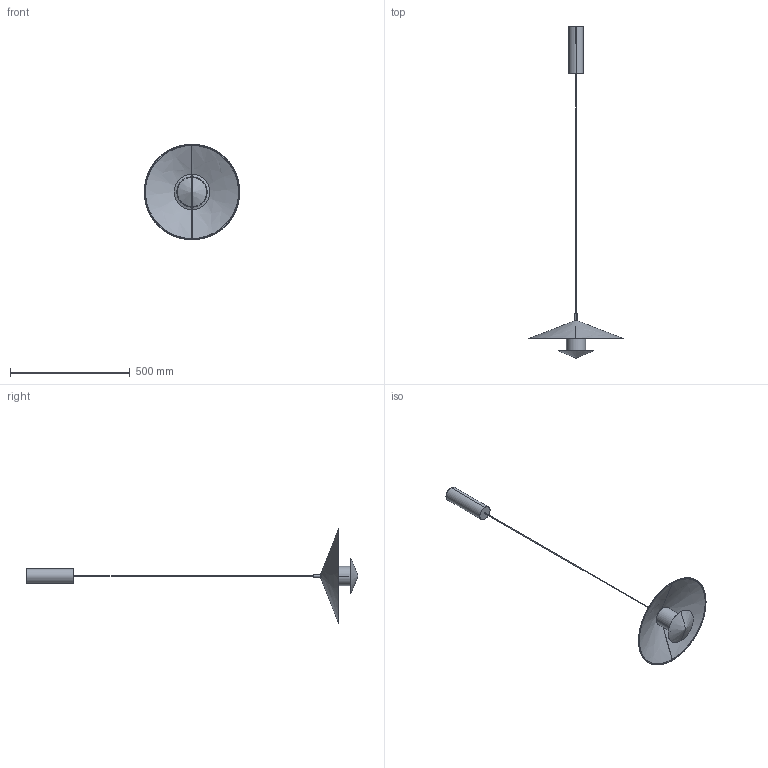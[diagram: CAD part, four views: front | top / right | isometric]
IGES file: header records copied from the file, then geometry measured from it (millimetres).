
Start section: SolidWorks IGES file using analytic representation for surfaces
Global section: file name: C:\Users\Agustin\Desktop\ARNOLD\SEPT 2025\2D-3D DEFINITIVO ONEDRIVE\2D-3D GEHIT_C1350_40\2D-3D GEHIT_C1350_40.IGS; native system: SolidWorks 2018; preprocessor: SolidWorks 2018; author: Agustin; date: 250905.173647; units: millimetre
Bounding box: 398.25 x 1385.89 x 398.26 mm (x, y, z)
Surface area: 430409.2 mm2 (no closed solid volume)
Topology: 0 solids, 0 shells, 41 faces, 1024 edges, 1018 vertices
Faces by surface type: revolution 22, bspline 19
